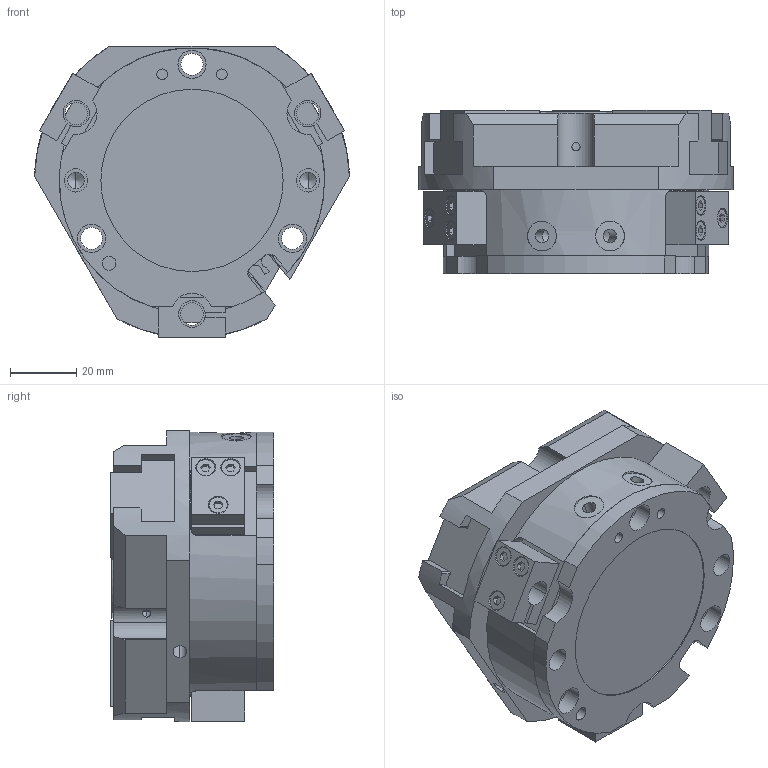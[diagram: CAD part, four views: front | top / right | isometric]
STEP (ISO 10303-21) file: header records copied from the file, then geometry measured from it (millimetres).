
FILE_DESCRIPTION (( 'STEP AP214' ), '1' );
FILE_NAME ('FCT-80A-1.STEP', '2020-07-07T10:50:53', ( '' ), ( '' ), 'SwSTEP 2.0', 'SolidWorks 2016', '' );
FILE_SCHEMA (( 'AUTOMOTIVE_DESIGN' ));
Length unit declared in the file: millimetre
Products named in the file (6): NAUO21; NAUO51; NAUO71; NAUO11; NAUO81; FCT-80A-1
Assembly tree (9 placements, depth 2):
  FCT-80A-1
    NAUO11
    NAUO21  x3
    NAUO51
    NAUO71
    NAUO81  x3
Bounding box: 94.97 x 49.3 x 88 mm (x, y, z)
Volume: 239599.1 mm3; surface area: 68247.6 mm2
Topology: 9 solids, 9 shells, 565 faces, 1439 edges, 921 vertices
Faces by surface type: plane 292, cylinder 209, cone 64
Entity records: 12601 total; most frequent: CARTESIAN_POINT 2577, DIRECTION 2113, ORIENTED_EDGE 1982, EDGE_CURVE 991, AXIS2_PLACEMENT_3D 765, VERTEX_POINT 653, VECTOR 583, LINE 583
